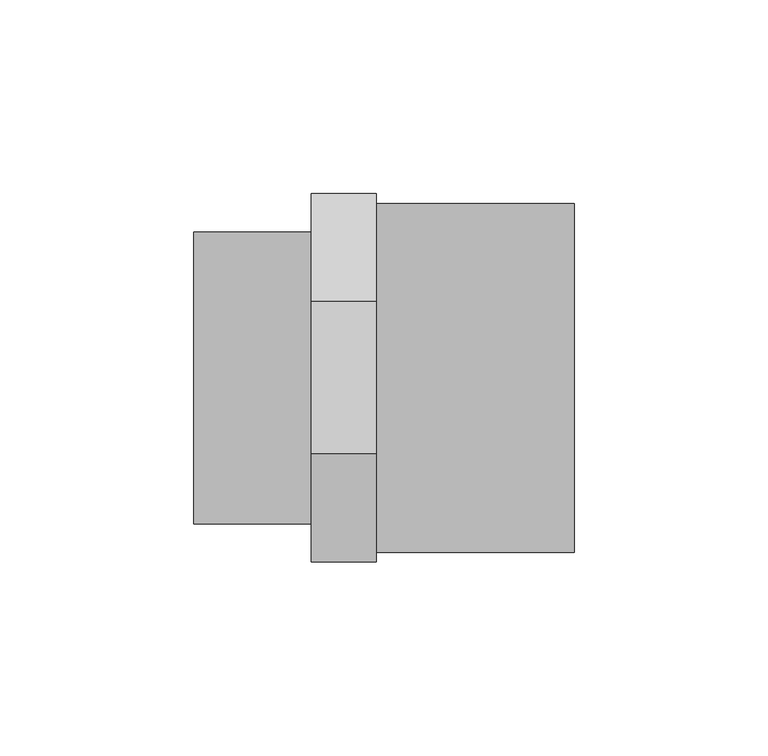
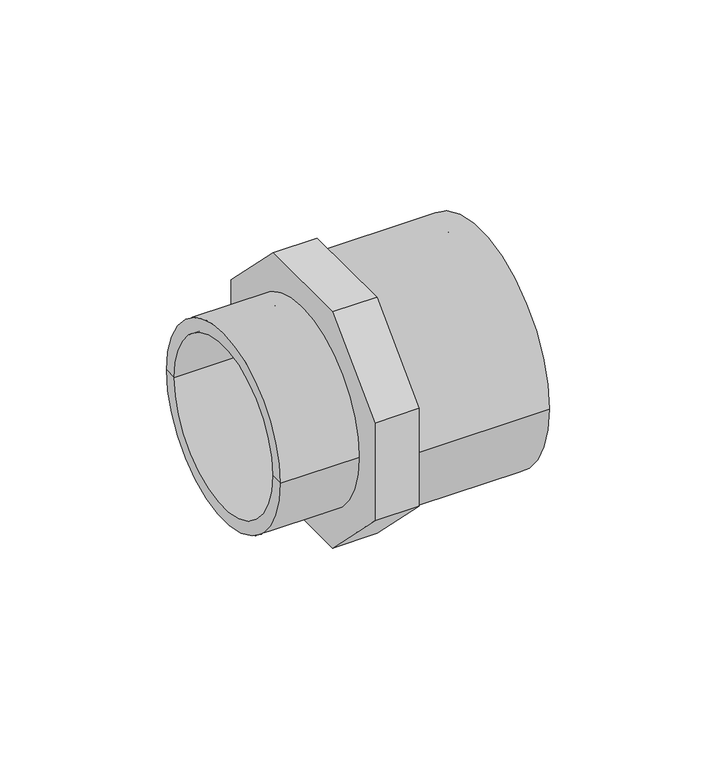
"""IFC4 building model written with IfcOpenShell, lengths in millimetres: pipe fitting geometry, Durapipe_PipeFitting_PVC_MaleThreadedAdaptors : 90 x 75 x G2-1⁄2."""

from ifc_helpers import new_model, si_unit, point, frame, origin, origin_2d, place, context, project, spatial, polyline, circle_curve, trimmed, segment, composite_curve, outline, extrude, source, transform, mapped, element, save
from ifc_brep_helpers import plane_surface, cylinder_surface, revolved_surface, advanced_brep


def pipe_fitting_60481200(model_context):
    return source(origin(), model_context, "Body", "SolidModel", [
        extrude(outline(polyline([(47.5, 19.6751442), (47.5, -19.6751442), (19.6751442, -47.5), (-19.6751442, -47.5), (-47.5, -19.6751442), (-47.5, 19.6751442), (-19.6751442, 47.5), (19.6751442, 47.5), (47.5, 19.6751442)]), holes=[composite_curve([segment(trimmed(circle_curve(origin_2d(), 32.5), [point((32.5, 0.0))], [point((-32.5, 0.0))], True, "CARTESIAN"), True, "CONTINUOUS"), segment(trimmed(circle_curve(origin_2d(), 32.5), [point((-32.5, 0.0))], [point((32.5, 0.0))], True, "CARTESIAN"), True, "CONTINUOUS")], self_intersect=False)]), frame((-16.8, 0.0, 0.0), z_axis=(1.0, 0.0, 0.0), x_axis=(0.0, 1.0, 0.0)), (0.0, 0.0, 1.0), 16.8),
        advanced_brep(
        [(0.0, -45.0, 0.0), (0.0, 45.0, 0.0), (51.0, 45.0, 0.0), (51.0, -45.0, 0.0), (51.0, 37.5, 0.0), (51.0, -37.5, 0.0), (0.0, 0.0, 0.0), (7.0, 37.5, 0.0), (7.0, -37.5, 0.0), (7.0, 0.0, 0.0)],
        [
            (0, 1, circle_curve(frame((0.0, 0.0, 0.0), z_axis=(1.0, 0.0, 0.0), x_axis=(0.0, 1.0, 0.0)), 45.0)),
            (1, 2),
            (2, 3, circle_curve(frame((51.0, 0.0, 0.0), z_axis=(-1.0, 0.0, 0.0), x_axis=(0.0, 1.0, 0.0)), 45.0)),
            (3, 0),
            (1, 0, circle_curve(frame((0.0, 0.0, 0.0), z_axis=(1.0, 0.0, 0.0), x_axis=(0.0, 1.0, 0.0)), 45.0)),
            (3, 2, circle_curve(frame((51.0, 0.0, 0.0), z_axis=(-1.0, 0.0, 0.0), x_axis=(0.0, 1.0, 0.0)), 45.0)),
            (2, 4),
            (4, 5, circle_curve(frame((51.0, 0.0, 0.0), z_axis=(-1.0, 0.0, 0.0), x_axis=(0.0, 1.0, 0.0)), 37.5)),
            (5, 3),
            (5, 4, circle_curve(frame((51.0, 0.0, 0.0), z_axis=(-1.0, 0.0, 0.0), x_axis=(0.0, 1.0, 0.0)), 37.5)),
            (0, 6),
            (6, 1),
            (7, 8, circle_curve(frame((7.0, 0.0, 0.0), z_axis=(-1.0, 0.0, 0.0), x_axis=(0.0, 1.0, 0.0)), 37.5)),
            (8, 5),
            (4, 7),
            (8, 7, circle_curve(frame((7.0, 0.0, 0.0), z_axis=(-1.0, 0.0, 0.0), x_axis=(0.0, 1.0, 0.0)), 37.5)),
            (7, 9),
            (9, 8),
        ],
        [
            cylinder_surface(frame((452.4572068, 0.0, 0.0), z_axis=(-1.0, 0.0, 0.0), x_axis=(0.0, 1.0, 0.0)), 45.0),
            plane_surface(frame((51.0, 0.0, 0.0), z_axis=(1.0, 0.0, 0.0), x_axis=(0.0, 1.0, 0.0))),
            plane_surface(frame((0.0, 0.0, 0.0), z_axis=(-1.0, 0.0, 0.0), x_axis=(0.0, 1.0, 0.0))),
            revolved_surface(polyline([(7.0, 37.5, 0.0), (51.0, 37.5, 0.0)]), (64.5575137, 0.0, 0.0), (-1.0, 0.0, 0.0)),
            plane_surface(frame((7.0, 0.0, 0.0), z_axis=(1.0, 0.0, 0.0), x_axis=(0.0, 1.0, 0.0))),
        ],
        [
            (0, [[1, 2, 3, 4]]),
            (0, [[-2, 5, -4, 6]]),
            (1, [[-3, 7, 8, 9]]),
            (1, [[-6, -9, 10, -7]]),
            (2, [[-1, 11, 12]]),
            (2, [[-5, -12, -11]]),
            (3, [[13, 14, -8, 15]]),
            (3, [[16, -15, -10, -14]]),
            (4, [[-13, 17, 18]]),
            (4, [[-16, -18, -17]]),
        ],
    ),
        advanced_brep(
        [(-16.8, -32.5, 0.0), (-16.8, 32.5, 0.0), (-47.0, 32.5, 0.0), (-47.0, -32.5, 0.0), (-16.8, -37.6, 0.0), (-16.8, 37.6, 0.0), (-47.0, -37.6, 0.0), (-47.0, 37.6, 0.0)],
        [
            (0, 1, circle_curve(frame((-16.8, 0.0, 0.0), z_axis=(1.0, 0.0, 0.0), x_axis=(0.0, 1.0, 0.0)), 32.5)),
            (1, 2),
            (2, 3, circle_curve(frame((-47.0, 0.0, 0.0), z_axis=(-1.0, 0.0, 0.0), x_axis=(0.0, 1.0, 0.0)), 32.5)),
            (3, 0),
            (1, 0, circle_curve(frame((-16.8, 0.0, 0.0), z_axis=(1.0, 0.0, 0.0), x_axis=(0.0, 1.0, 0.0)), 32.5)),
            (3, 2, circle_curve(frame((-47.0, 0.0, 0.0), z_axis=(-1.0, 0.0, 0.0), x_axis=(0.0, 1.0, 0.0)), 32.5)),
            (4, 5, circle_curve(frame((-16.8, 0.0, 0.0), z_axis=(1.0, 0.0, 0.0), x_axis=(0.0, 1.0, 0.0)), 37.6)),
            (5, 1),
            (0, 4),
            (5, 4, circle_curve(frame((-16.8, 0.0, 0.0), z_axis=(1.0, 0.0, 0.0), x_axis=(0.0, 1.0, 0.0)), 37.6)),
            (6, 7, circle_curve(frame((-47.0, 0.0, 0.0), z_axis=(1.0, 0.0, 0.0), x_axis=(0.0, 1.0, 0.0)), 37.6)),
            (7, 5),
            (4, 6),
            (7, 6, circle_curve(frame((-47.0, 0.0, 0.0), z_axis=(1.0, 0.0, 0.0), x_axis=(0.0, 1.0, 0.0)), 37.6)),
            (2, 7),
            (6, 3),
        ],
        [
            revolved_surface(polyline([(-47.0, 32.5, 0.0), (-16.799999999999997, 32.5, 0.0)]), (-62.0, 0.0, 0.0), (-1.0, 0.0, 0.0)),
            plane_surface(frame((-16.8, 0.0, 0.0), z_axis=(1.0, 0.0, 0.0), x_axis=(0.0, 1.0, 0.0))),
            cylinder_surface(frame((-62.0, 0.0, 0.0), z_axis=(-1.0, 0.0, 0.0), x_axis=(0.0, 1.0, 0.0)), 37.6),
            plane_surface(frame((-47.0, 0.0, 0.0), z_axis=(-1.0, 0.0, 0.0), x_axis=(0.0, 1.0, 0.0))),
        ],
        [
            (0, [[1, 2, 3, 4]]),
            (0, [[5, -4, 6, -2]]),
            (1, [[7, 8, -1, 9]]),
            (1, [[10, -9, -5, -8]]),
            (2, [[11, 12, -7, 13]]),
            (2, [[14, -13, -10, -12]]),
            (3, [[-3, 15, -11, 16]]),
            (3, [[-6, -16, -14, -15]]),
        ],
    ),
    ])


if __name__ == "__main__":
    model = new_model("IFC4")
    model_context = context("Model", 3, world=origin())
    ifc_project = project(units=[si_unit("LENGTHUNIT", "METRE", prefix="MILLI")], contexts=[model_context])
    site = spatial("IfcSite", under=ifc_project)
    building = spatial("IfcBuilding", under=site)
    placement = place(None, origin())
    pipe_fitting_shape = pipe_fitting_60481200(model_context)
    element("IfcPipeFitting", 1, ObjectType="Durapipe_PipeFitting_PVC_MaleThreadedAdaptors : 90 x 75 x G2-1⁄2", at=placement, inside=building, context=model_context, shape_type="MappedRepresentation", body=[
        mapped(pipe_fitting_shape, transform((0.0, 0.0, 0.0), x_axis=(1.0, 0.0, 0.0), y_axis=(0.0, 1.0, 0.0), z_axis=(0.0, 0.0, 1.0))),
    ])
    save(model, "model.ifc")
